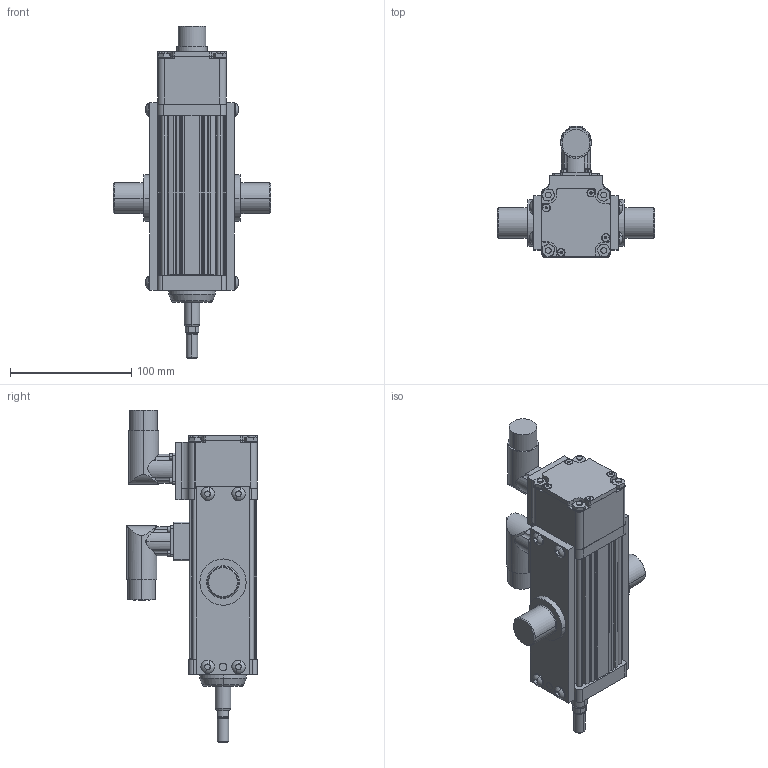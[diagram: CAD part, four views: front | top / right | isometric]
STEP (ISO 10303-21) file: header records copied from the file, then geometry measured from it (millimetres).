
FILE_DESCRIPTION (( 'STEP AP203' ), '1' );
FILE_NAME ('GSM20-3 inch Trunnion Mount, Euro Conn, M Rod.step', '2008-05-29T12:26:00', ( 'SaharaKiran' ), ( 'I2T2' ), 'SwSTEP 2.0', 'SolidWorks 2008', '' );
FILE_SCHEMA (( 'CONFIG_CONTROL_DESIGN' ));
Length unit declared in the file: inch
Products named in the file (23): 19738; END CAP_31201; 12692; 20528; END CAP_TRUNNION-31201-EURO; 12877; 12709; 15026; 12871; 12367; GSM20-3 inch Trunnion Mount, Euro Conn, M Rod; CYLINDER_31367-3 inch; CASE_31193-3 inch; MAIN ROD_M-MAIN ROD-3 inch; 31603; 19819; 20494; 31527_90585A200; 31335; 12710; TRUNNION PLATE_TRUNNION ASSY-3 inch; TRUNNION PLATE_14522-3 inch; TieRod_30964-3"
Assembly tree (51 placements, depth 3):
  GSM20-3 inch Trunnion Mount, Euro Conn, M Rod
    12692  x2
    15026  x8
    TRUNNION PLATE_TRUNNION ASSY-3 inch  x2
      12871
      TRUNNION PLATE_14522-3 inch
    12710  x4
    END CAP_TRUNNION-31201-EURO
      31527_90585A200  x4
      END CAP_31201
      12367  x4
      20494
      31335
    TieRod_30964-3"  x4
    12367  x4
    19738
    12877  x2
    12709  x4
    20528
    19819
    CYLINDER_31367-3 inch
    CASE_31193-3 inch
    31603
    MAIN ROD_M-MAIN ROD-3 inch
Bounding box: 129.92 x 108.01 x 273.6 mm (x, y, z)
Volume: 542548.6 mm3; surface area: 240762.6 mm2
Topology: 50 solids, 50 shells, 1736 faces, 3999 edges, 2426 vertices
Faces by surface type: cylinder 732, plane 518, cone 390, torus 96
Entity records: 35569 total; most frequent: CARTESIAN_POINT 7247, DIRECTION 5672, ORIENTED_EDGE 4894, EDGE_CURVE 2447, AXIS2_PLACEMENT_3D 2269, VERTEX_POINT 1555, EDGE_LOOP 1254, CIRCLE 1173
